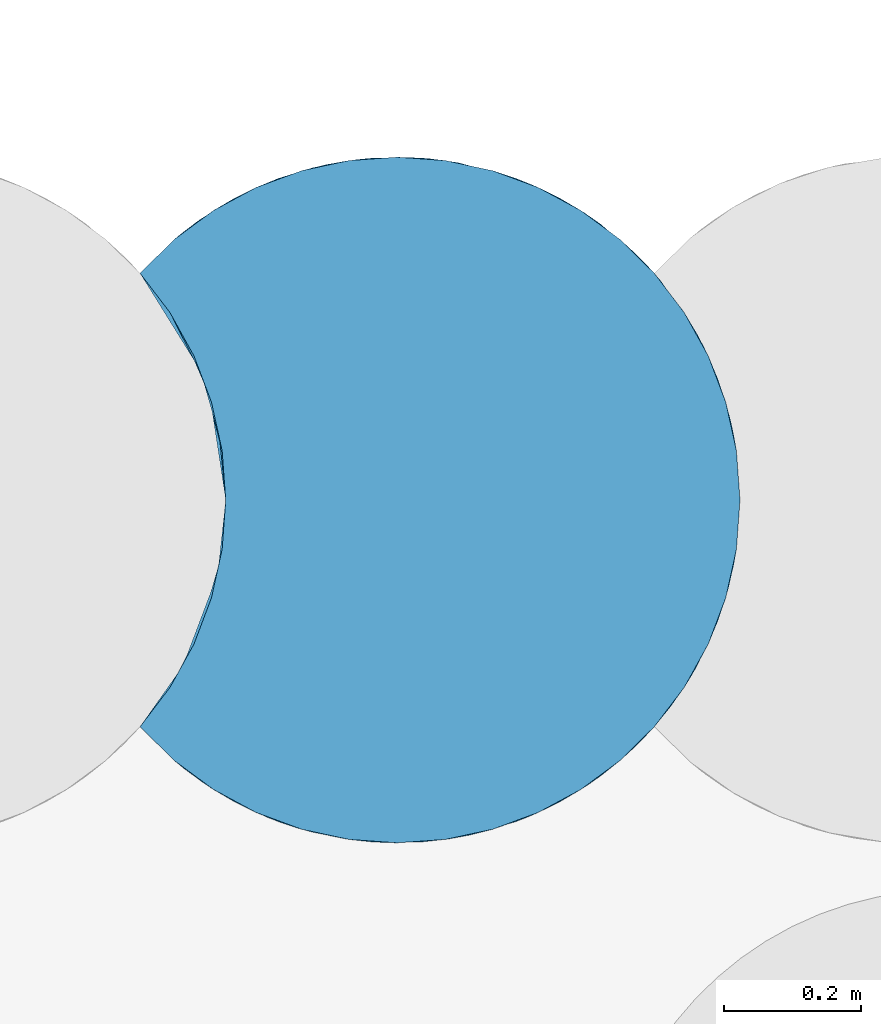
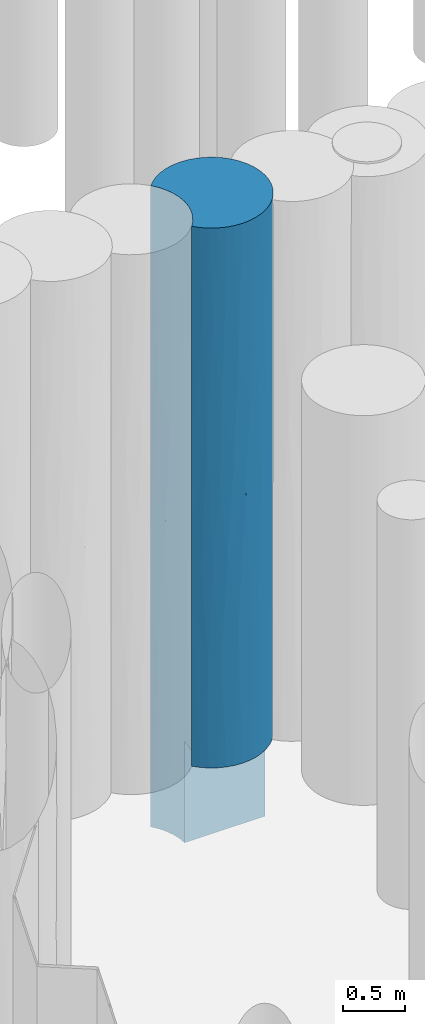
# One storey, part 84 of 104: 1 pile.
"""IFC2X3 building model written with IfcOpenShell, lengths in millimetres."""

from ifc_helpers import new_model, entity, si_unit, converted_unit, derived_unit, direction, frame, origin, place, context, subcontext, project, spatial, faceted_brep, source, transform, mapped, material, element, save


model = new_model("IFC2X3")

# Units and contexts
model_context = context("Model", 3, precision=0.01, world=origin(), true_north=direction((6.12303176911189e-17, 1.0)))
body_context = subcontext(model_context, "Body", "Model", "MODEL_VIEW")
ifc_project = project(units=[si_unit("LENGTHUNIT", "METRE", prefix="MILLI"), si_unit("AREAUNIT", "SQUARE_METRE", prefix="MILLI"), si_unit("VOLUMEUNIT", "CUBIC_METRE"), converted_unit("PLANEANGLEUNIT", "DEGREE", entity("IfcRatioMeasure", 0.0174532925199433), si_unit("PLANEANGLEUNIT", "RADIAN"), dimensions=[0, 0, 0, 0, 0, 0, 0]), si_unit("MASSUNIT", "GRAM", prefix="KILO"), derived_unit("MASSDENSITYUNIT", [(si_unit("MASSUNIT", "GRAM", prefix="KILO"), 1), (si_unit("LENGTHUNIT", "METRE"), -3)]), derived_unit("MOMENTOFINERTIAUNIT", [(si_unit("LENGTHUNIT", "METRE"), 4)]), si_unit("TIMEUNIT", "SECOND"), si_unit("FREQUENCYUNIT", "HERTZ"), si_unit("THERMODYNAMICTEMPERATUREUNIT", "DEGREE_CELSIUS"), derived_unit("THERMALTRANSMITTANCEUNIT", [(si_unit("MASSUNIT", "GRAM", prefix="KILO"), 1), (si_unit("THERMODYNAMICTEMPERATUREUNIT", "KELVIN"), -1), (si_unit("TIMEUNIT", "SECOND"), -3)]), derived_unit("VOLUMETRICFLOWRATEUNIT", [(si_unit("LENGTHUNIT", "METRE"), 3), (si_unit("TIMEUNIT", "SECOND"), -1)]), si_unit("ELECTRICCURRENTUNIT", "AMPERE"), si_unit("ELECTRICVOLTAGEUNIT", "VOLT"), si_unit("POWERUNIT", "WATT"), si_unit("FORCEUNIT", "NEWTON", prefix="KILO"), si_unit("ILLUMINANCEUNIT", "LUX"), si_unit("LUMINOUSFLUXUNIT", "LUMEN"), si_unit("LUMINOUSINTENSITYUNIT", "CANDELA"), derived_unit("USERDEFINED", [(si_unit("MASSUNIT", "GRAM", prefix="KILO"), -1), (si_unit("LENGTHUNIT", "METRE"), -2), (si_unit("TIMEUNIT", "SECOND"), 3), (si_unit("LUMINOUSFLUXUNIT", "LUMEN"), 1)]), derived_unit("LINEARVELOCITYUNIT", [(si_unit("LENGTHUNIT", "METRE"), 1), (si_unit("TIMEUNIT", "SECOND"), -1)]), si_unit("PRESSUREUNIT", "PASCAL"), derived_unit("USERDEFINED", [(si_unit("LENGTHUNIT", "METRE"), -2), (si_unit("MASSUNIT", "GRAM", prefix="KILO"), 1), (si_unit("TIMEUNIT", "SECOND"), -2)]), derived_unit("LINEARFORCEUNIT", [(si_unit("MASSUNIT", "GRAM", prefix="KILO"), 1), (si_unit("LENGTHUNIT", "METRE"), 1), (si_unit("TIMEUNIT", "SECOND"), -2), (si_unit("LENGTHUNIT", "METRE"), -1)]), derived_unit("PLANARFORCEUNIT", [(si_unit("MASSUNIT", "GRAM", prefix="KILO"), 1), (si_unit("LENGTHUNIT", "METRE"), 1), (si_unit("TIMEUNIT", "SECOND"), -2), (si_unit("LENGTHUNIT", "METRE"), -2)])], contexts=[model_context])

# Site, building, storey
site_placement = place(None, origin())
site = spatial("IfcSite", under=ifc_project, at=site_placement, Name="Theater aan de Parade", CompositionType="ELEMENT")
building_placement = place(site_placement, origin())
building = spatial("IfcBuilding", under=site, at=building_placement, Name="Theater aan de Parade", CompositionType="ELEMENT")
storey_placement = place(building_placement, frame((0.0, 0.0, -5520.0)))
storey = spatial("IfcBuildingStorey", under=building, at=storey_placement, Name="-2 kelder", CompositionType="ELEMENT", Elevation=-5520.0)

# Pile
ifc_material = material(Name="00_PBT_MAT_grout")
shared_shape = source(origin(), body_context, "Body", "Brep", [
    faceted_brep([(447.024567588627, 996.610134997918, 0.0), (516.050365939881, 981.753867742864, 0.0), (582.295809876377, 957.322481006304, 0.0), (644.440261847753, 923.802640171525, 0.0), (701.244632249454, 881.862011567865, 0.0), (751.564698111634, 832.344511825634, 0.0), (795.307447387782, 774.871898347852, 0.0), (830.3061049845, 711.705910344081, 0.0), (855.841245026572, 644.155075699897, 0.0), (871.379164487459, 573.629291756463, 0.0), (876.595272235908, 501.595272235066, 0.0), (126.595272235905, 501.595272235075, 0.0), (121.380912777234, 573.617282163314, 0.0), (105.846592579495, 644.137097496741, 0.0), (80.3163177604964, 711.683855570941, 0.0), (45.3225844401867, 774.848704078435, 0.0), (1.59527223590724, 832.314186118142, 0.0), (51.9353252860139, 881.852972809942, 0.0), (108.741467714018, 923.797047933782, 0.0), (170.888616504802, 957.319719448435, 0.0), (237.136331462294, 981.75275040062, 0.0), (306.163620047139, 996.609799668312, 0.0), (376.594352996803, 1001.59527223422, 0.0), (794.756123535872, 775.714776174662, 1228.81272915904), (549.604882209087, 970.70898431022, 4489.81932615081), (520.051793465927, 980.573587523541, 5382.91341902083), (613.960467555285, 941.660908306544, 5318.51941458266), (876.595272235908, 501.595272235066, 1000.0), (871.379164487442, 573.629291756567, 6320.0), (876.595272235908, 501.59527223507, 6320.0), (876.595272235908, 501.595272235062, 5539.2311470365), (876.595272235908, 501.59527223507, 4758.46227378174), (520.051793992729, 980.573587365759, 937.086578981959), (844.294832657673, 678.392108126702, 1164.36332466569), (271.387390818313, 990.401268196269, 1001.48399115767), (613.960468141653, 941.660907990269, 1001.48058281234), (465.503122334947, 993.627175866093, 3572.9572876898), (591.95749686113, 952.837016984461, 2592.25031757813), (425.19152205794, 999.228073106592, 2413.69991540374), (51.9353254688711, 881.85297296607, 6320.0), (108.741467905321, 923.797048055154, 6320.0), (62.3331531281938, 890.490271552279, 5148.84671821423), (727.290636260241, 857.983770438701, 1464.8632228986), (813.948631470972, 743.92157944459, 2176.7551094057), (411.897565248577, 1000.34746331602, 1347.03164863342), (170.419670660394, 957.107754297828, 3160.0), (89.8360826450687, 911.191618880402, 2088.29114741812), (79.5245862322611, 903.775589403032, 3056.90562258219), (844.294831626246, 678.392110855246, 4334.71686722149), (813.948631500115, 743.921579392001, 5244.04250825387), (856.701469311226, 641.230652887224, 5294.90075363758), (317.324708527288, 998.069843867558, 2005.67899400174), (139.222527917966, 941.65683639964, 5318.51289021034), (271.387391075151, 990.401268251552, 5318.5160089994), (203.580632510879, 970.707129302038, 4489.82136728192), (855.841245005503, 644.155075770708, 6320.0), (830.306104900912, 711.705910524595, 6320.0), (411.897565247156, 1000.34746331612, 4972.9683515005), (376.594352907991, 1001.59527223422, 6320.0), (447.024567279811, 996.610135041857, 6320.0), (876.595272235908, 501.595272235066, 2098.46227378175), (869.333230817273, 586.502893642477, 1549.23112851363), (646.439422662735, 922.52773057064, 4378.31323819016), (861.144910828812, 624.930781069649, 2647.69338986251), (139.222527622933, 941.656836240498, 1001.48711016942), (795.307447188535, 774.871898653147, 6320.0), (576.321270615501, 959.972328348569, 3449.19162586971), (751.585178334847, 832.325631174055, 6320.0), (727.290636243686, 857.983770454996, 5537.32646657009), (701.244631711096, 881.862012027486, 6320.0), (203.580632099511, 970.707129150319, 1830.17863376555), (644.440261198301, 923.802640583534, 6320.0), (341.290873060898, 1000.34731423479, 3160.0), (253.934917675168, 986.316261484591, 2717.65300360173), (650.01973412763, 920.21092368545, 1972.39054739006), (549.604882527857, 970.70898419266, 1830.18066998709), (62.3331529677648, 890.490271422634, 1171.15328050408), (876.595272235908, 501.595272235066, 3196.92454756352), (876.595272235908, 501.595272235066, 2561.5377059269), (793.00101597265, 778.373625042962, 4276.18344993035), (864.687323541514, 610.067155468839, 3612.80310461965), (727.290635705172, 857.983770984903, 4689.95415944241), (1.59527223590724, 832.314186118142, 5539.23141195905), (1.59527223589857, 832.314186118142, 4758.45763153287), (1.59527223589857, 832.314186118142, 780.768588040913), (1.59527223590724, 832.314186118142, 1561.53717608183), (582.295809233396, 957.322481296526, 6320.0), (516.050365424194, 981.753867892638, 6320.0), (1.59527223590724, 832.314186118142, 6320.0), (170.888616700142, 957.319719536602, 6320.0), (760.967406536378, 821.373417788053, 2912.00306888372), (306.163620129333, 996.609799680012, 6320.0), (237.136331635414, 981.752750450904, 6320.0), (317.324708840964, 998.069843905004, 4314.32100595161), (824.270181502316, 724.277053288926, 3295.1742905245), (740.362063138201, 844.631308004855, 3786.33735840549), (89.8360828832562, 911.191619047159, 4231.70885066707), (1.59527223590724, 832.314186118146, 2342.30657834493), (1.59527223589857, 832.314186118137, 3123.07435216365), (1.59527223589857, 832.314186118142, 3940.76599184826), (1.5952722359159, 832.314186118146, 4721.53800578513), (868.31868141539, 592.193775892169, 4573.56444361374), (673.583725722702, 903.836317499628, 3160.0), (876.595272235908, 501.595272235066, 4123.07541185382), (1.5952722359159, 832.314186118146, 3922.30672178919), (203.582286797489, 32.4828050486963, 2063.74645387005), (104.799222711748, 81.9205083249, 2017.24056259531), (170.888936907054, 45.8706803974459, 1000.0), (306.169463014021, 6.57991348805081, 1000.0), (237.139379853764, 21.4369086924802, 1000.0), (108.739323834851, 79.3948566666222, 1000.0), (844.29862219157, 324.808461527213, 1964.84509720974), (855.843884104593, 359.044340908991, 1000.0), (871.380005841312, 429.567032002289, 1000.0), (51.9315440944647, 121.340800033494, 1000.0), (249.149636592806, 18.1104121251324, 3064.60351294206), (341.298032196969, 2.84272352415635, 2389.43952600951), (481.811471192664, 12.7910665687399, 1910.77219920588), (447.035194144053, 6.58192150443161, 1000.0), (516.062532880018, 21.4402106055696, 1000.0), (795.307447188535, 228.318645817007, 6320.0), (804.969430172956, 243.727901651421, 5501.66350533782), (830.306104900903, 291.484633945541, 6320.0), (376.602802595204, 1.59527229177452, 1000.0), (727.301618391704, 145.217581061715, 3659.99144225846), (673.596082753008, 99.363350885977, 2270.79748972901), (774.493590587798, 198.813290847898, 2390.35009709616), (481.80003106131, 12.7886041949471, 5409.25641590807), (453.100427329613, 7.48297604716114, 4513.69340896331), (549.604883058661, 32.4815604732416, 4692.84905904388), (226.910865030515, 24.526536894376, 5446.00106667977), (237.136331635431, 21.4377940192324, 6320.0), (170.888616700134, 45.8708249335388, 6320.0), (203.580632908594, 32.4834150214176, 4596.17974534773), (186.509828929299, 39.1371398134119, 3719.1308989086), (302.739707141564, 7.07999895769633, 3999.49399943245), (567.354968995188, 39.4148549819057, 1816.1274248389), (549.617476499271, 32.4862051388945, 2627.20563650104), (582.308728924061, 45.8738949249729, 1000.0), (613.96046814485, 61.5296364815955, 5409.25483365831), (139.222528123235, 61.5337079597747, 5366.3614019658), (94.9848091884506, 88.4420959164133, 4306.20718492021), (66.1639001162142, 109.635627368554, 5518.62855545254), (1.59527223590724, 170.876358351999, 3342.30506081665), (1.5952722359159, 170.876358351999, 4123.07341442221), (701.244631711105, 121.328532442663, 6320.0), (727.290636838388, 145.206774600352, 5009.81933080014), (751.585178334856, 170.864913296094, 6320.0), (51.9353254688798, 121.33757150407, 6320.0), (1.59527223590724, 170.876358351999, 6320.0), (1.59527223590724, 170.876358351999, 5539.23164639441), (108.741467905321, 79.3934964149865, 6320.0), (830.311221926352, 291.49568395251, 1000.0), (306.163620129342, 6.58074479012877, 6320.0), (868.398757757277, 411.432465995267, 5503.47129762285), (859.976701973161, 373.757901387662, 4296.85621176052), (376.594352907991, 1.5952722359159, 6320.0), (341.290874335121, 2.8432301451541, 4999.47557712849), (751.595272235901, 170.87635835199, 1000.0), (795.315189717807, 228.330509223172, 1000.0), (516.050365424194, 21.4366765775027, 6320.0), (447.024567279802, 6.58040942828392, 6320.0), (844.298622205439, 324.808461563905, 2985.23218810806), (453.112845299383, 7.48489892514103, 2806.34173780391), (1.59527223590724, 170.876358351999, 2561.5367072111), (1.59527223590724, 170.876358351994, 1780.7688531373), (1.59527223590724, 170.876358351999, 1000.0), (644.453065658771, 79.3960272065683, 1000.0), (701.256460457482, 121.33863144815, 1000.0), (644.440261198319, 79.3879038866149, 6320.0), (868.741967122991, 413.32505805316, 3421.75623803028), (411.907133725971, 2.84375851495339, 3659.99398159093), (801.333356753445, 237.781778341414, 3614.51908154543), (866.89834836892, 403.600917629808, 2475.03864258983), (139.221565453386, 61.5342272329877, 2966.67369440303), (855.841245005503, 359.035468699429, 6320.0), (844.294832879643, 324.798436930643, 5400.40783371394), (577.171561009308, 43.589647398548, 3660.04365239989), (656.879911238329, 87.5415062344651, 3205.14514333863), (651.229971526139, 83.772604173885, 4395.20285150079), (582.295809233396, 45.8680631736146, 6320.0), (813.948632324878, 259.268966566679, 4682.88089299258), (871.379164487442, 429.561252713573, 6320.0), (61.5885442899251, 113.303163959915, 2951.9221345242), (1.59527223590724, 170.876358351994, 3196.92458745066), (1.59527223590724, 170.876358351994, 4758.46229372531), (121.380912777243, 573.617282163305, 6320.0), (126.595272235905, 501.595272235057, 6320.0), (121.380912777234, 429.573262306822, 6320.0), (105.846592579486, 359.05344697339, 6320.0), (80.3163177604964, 291.506688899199, 6320.0), (45.3225844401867, 228.341840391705, 6320.0), (45.3225844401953, 774.848704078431, 6320.0), (80.3163177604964, 711.683855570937, 6320.0), (105.846592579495, 644.137097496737, 6320.0), (126.595272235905, 501.59527223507, 1000.0), (126.595272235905, 501.595272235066, 4758.46227344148), (126.595272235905, 501.595272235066, 5539.23114702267), (103.716989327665, 651.110713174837, 929.570302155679), (117.506504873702, 596.496071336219, 2931.36424013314), (119.581500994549, 585.049320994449, 1600.95905710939), (126.595272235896, 501.595272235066, 2098.46227344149), (63.9612327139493, 743.898835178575, 1002.25156593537), (57.034257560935, 756.001010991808, 3976.06843691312), (59.0094113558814, 752.629158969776, 4844.99935350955), (94.3024450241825, 678.371969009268, 5355.17937068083), (52.6084708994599, 763.344684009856, 1951.92213360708), (94.3024450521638, 678.371968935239, 1823.06883573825), (89.4529642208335, 690.705708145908, 3078.94407721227), (119.45154693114, 585.813396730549, 3842.56157073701), (94.3024444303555, 678.371970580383, 4334.81933337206), (116.899441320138, 599.584158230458, 4844.99935891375), (126.595272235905, 501.595272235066, 3196.92454688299), (126.595272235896, 501.595272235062, 4123.07541190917), (126.595272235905, 501.595272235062, 2561.53770595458), (114.888484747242, 394.032552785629, 5404.38906559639), (63.9612331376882, 259.291710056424, 5404.38906552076), (52.4390141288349, 239.570259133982, 2802.0358188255), (63.9612331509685, 259.291710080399, 1947.59403560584), (94.3024456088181, 324.81857700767, 2700.69910324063), (114.88848475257, 394.032552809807, 1947.59403553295), (80.3163177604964, 291.506688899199, 1000.0), (45.3225844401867, 228.341840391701, 1000.0), (119.327197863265, 416.652647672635, 4541.19743988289), (86.8326465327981, 306.194250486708, 3696.32218371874), (117.809113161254, 408.273450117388, 3449.75323103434), (105.846592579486, 359.05344697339, 1000.0), (121.380912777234, 429.573262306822, 1000.0), (94.3024455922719, 324.818576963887, 4691.94526432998), (54.0384103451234, 242.18755514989, 4333.70688615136)], [[[0, 1, 2, 3, 4, 5, 6, 7, 8, 9, 10, 11, 12, 13, 14, 15, 16, 17, 18, 19, 20, 21, 22]], [[7, 6, 23]], [[24, 25, 26]], [[10, 9, 27]], [[28, 29, 30, 31]], [[1, 32, 2]], [[33, 9, 8]], [[19, 34, 20]], [[3, 2, 35]], [[36, 37, 38]], [[39, 40, 41]], [[42, 43, 23]], [[23, 43, 33]], [[42, 5, 4]], [[32, 35, 2]], [[32, 0, 44]], [[45, 46, 47]], [[5, 42, 23]], [[8, 7, 33]], [[48, 49, 50]], [[51, 44, 34]], [[52, 53, 54]], [[55, 50, 56]], [[57, 58, 59]], [[60, 27, 61]], [[24, 26, 62]], [[56, 50, 49]], [[63, 33, 43]], [[64, 19, 18]], [[49, 65, 56]], [[66, 37, 36]], [[67, 68, 69]], [[34, 64, 70]], [[68, 26, 71]], [[72, 51, 73]], [[35, 74, 42]], [[74, 35, 75]], [[75, 35, 32]], [[68, 71, 69]], [[20, 34, 21]], [[4, 35, 42]], [[76, 18, 17]], [[63, 77, 78, 60]], [[31, 50, 28]], [[79, 49, 48]], [[33, 61, 9]], [[4, 3, 35]], [[64, 34, 19]], [[77, 63, 80]], [[49, 81, 68]], [[82, 41, 83]], [[76, 84, 85]], [[68, 65, 49]], [[26, 86, 71]], [[86, 26, 25]], [[86, 25, 87]], [[88, 39, 82]], [[17, 16, 84]], [[89, 52, 40]], [[25, 59, 87]], [[81, 49, 79]], [[42, 74, 90]], [[53, 58, 57]], [[91, 53, 92]], [[70, 64, 46]], [[36, 57, 24]], [[38, 44, 51]], [[53, 89, 92]], [[22, 21, 34]], [[52, 89, 53]], [[53, 93, 54]], [[22, 44, 0]], [[62, 26, 81]], [[94, 95, 79]], [[51, 34, 70]], [[22, 34, 44]], [[76, 17, 84]], [[76, 46, 64]], [[58, 53, 91]], [[93, 53, 57]], [[96, 52, 54]], [[41, 40, 52]], [[68, 67, 65]], [[26, 68, 81]], [[46, 85, 97, 98]], [[96, 99, 100, 83]], [[46, 98, 47]], [[96, 54, 45]], [[47, 99, 96]], [[45, 54, 93]], [[46, 45, 70]], [[48, 101, 80]], [[63, 60, 61]], [[63, 43, 94]], [[73, 70, 45]], [[38, 51, 72]], [[36, 93, 57]], [[93, 72, 73]], [[37, 74, 75]], [[90, 74, 102]], [[36, 38, 72]], [[75, 44, 38]], [[36, 72, 93]], [[36, 24, 66]], [[95, 62, 81]], [[66, 62, 102]], [[48, 94, 79]], [[90, 95, 94]], [[94, 48, 80]], [[90, 94, 43]], [[42, 90, 43]], [[95, 81, 79]], [[28, 50, 55]], [[101, 48, 50]], [[0, 32, 1]], [[44, 75, 32]], [[24, 57, 25]], [[59, 25, 57]], [[90, 102, 95]], [[62, 95, 102]], [[62, 66, 24]], [[102, 74, 37]], [[9, 61, 27]], [[63, 61, 33]], [[7, 23, 33]], [[5, 23, 6]], [[50, 31, 101]], [[80, 31, 103, 77]], [[80, 101, 31]], [[94, 80, 63]], [[38, 37, 75]], [[102, 37, 66]], [[46, 76, 85]], [[76, 64, 18]], [[41, 96, 83]], [[39, 41, 82]], [[96, 41, 52]], [[96, 45, 47]], [[47, 98, 104, 99]], [[70, 73, 51]], [[93, 73, 45]], [[105, 106, 107]], [[108, 105, 109]], [[106, 110, 107]], [[111, 112, 113]], [[114, 110, 106]], [[115, 105, 116]], [[117, 118, 119]], [[120, 121, 122]], [[123, 118, 117]], [[124, 125, 126]], [[127, 128, 129]], [[130, 131, 132]], [[116, 108, 123]], [[133, 134, 135]], [[136, 137, 117]], [[136, 117, 119]], [[108, 116, 105]], [[136, 119, 138]], [[139, 127, 129]], [[130, 140, 133]], [[141, 140, 142]], [[143, 141, 144]], [[145, 146, 147]], [[148, 149, 150]], [[142, 148, 150]], [[132, 151, 140]], [[132, 140, 130]], [[112, 111, 152]], [[130, 153, 131]], [[154, 155, 103]], [[127, 156, 157]], [[158, 159, 126]], [[127, 160, 161]], [[126, 111, 162]], [[163, 116, 117]], [[114, 164, 165, 166]], [[125, 167, 168]], [[145, 169, 139]], [[158, 126, 125]], [[170, 155, 162]], [[113, 27, 60, 78]], [[128, 135, 171]], [[105, 107, 109]], [[172, 126, 162]], [[111, 159, 152]], [[162, 111, 173]], [[126, 159, 111]], [[106, 105, 174]], [[140, 141, 133]], [[175, 122, 176]], [[177, 178, 179]], [[160, 127, 180]], [[157, 156, 153]], [[139, 180, 127]], [[180, 139, 169]], [[115, 174, 105]], [[178, 125, 124]], [[121, 146, 181]], [[146, 121, 147]], [[173, 113, 78]], [[124, 172, 181]], [[146, 139, 179]], [[176, 121, 181]], [[171, 163, 177]], [[154, 175, 176]], [[136, 167, 125]], [[154, 103, 31, 30]], [[158, 125, 168]], [[181, 146, 124]], [[30, 29, 182]], [[142, 151, 148]], [[142, 144, 141]], [[163, 117, 137]], [[123, 117, 116]], [[156, 127, 161]], [[157, 135, 128]], [[179, 139, 129]], [[145, 139, 146]], [[176, 181, 155]], [[182, 154, 30]], [[172, 155, 181]], [[170, 162, 173]], [[183, 143, 184, 164]], [[134, 141, 174]], [[177, 179, 129]], [[124, 146, 179]], [[171, 115, 116]], [[134, 174, 115]], [[177, 129, 128]], [[178, 137, 125]], [[177, 163, 137]], [[116, 163, 171]], [[157, 128, 127]], [[177, 128, 171]], [[106, 174, 183]], [[114, 106, 164]], [[113, 173, 111]], [[170, 78, 77, 103]], [[78, 170, 173]], [[103, 155, 170]], [[133, 157, 130]], [[153, 130, 157]], [[143, 183, 141]], [[106, 183, 164]], [[141, 183, 174]], [[167, 136, 138]], [[125, 137, 136]], [[122, 121, 176]], [[121, 120, 147]], [[135, 134, 115]], [[141, 134, 133]], [[175, 154, 182]], [[155, 154, 176]], [[142, 150, 185, 144]], [[151, 142, 140]], [[126, 172, 124]], [[155, 172, 162]], [[133, 135, 157]], [[115, 171, 135]], [[179, 178, 124]], [[137, 178, 177]], [[186, 187, 188, 189, 190, 191, 149, 148, 151, 132, 131, 153, 156, 161, 160, 180, 169, 145, 147, 120, 122, 175, 182, 29, 28, 55, 56, 65, 67, 69, 71, 86, 87, 59, 58, 91, 92, 89, 40, 39, 88, 192, 193, 194]], [[195, 12, 11]], [[186, 196, 197, 187]], [[14, 13, 198]], [[199, 200, 201]], [[15, 202, 16]], [[100, 203, 204]], [[205, 194, 193]], [[14, 202, 15]], [[198, 13, 12]], [[206, 207, 208]], [[209, 210, 208]], [[193, 192, 205]], [[204, 205, 192]], [[196, 186, 211]], [[198, 202, 14]], [[207, 202, 198]], [[209, 211, 210]], [[211, 205, 210]], [[212, 209, 199]], [[202, 85, 84, 16]], [[186, 194, 205]], [[192, 88, 82, 83, 100]], [[210, 205, 204]], [[98, 97, 85, 206]], [[205, 211, 186]], [[209, 212, 213, 196]], [[211, 209, 196]], [[208, 199, 209]], [[210, 204, 203]], [[195, 200, 198]], [[199, 208, 207]], [[199, 201, 214, 212]], [[203, 100, 99, 104, 98]], [[100, 204, 192]], [[203, 208, 210]], [[208, 203, 98]], [[207, 198, 200]], [[195, 198, 12]], [[207, 200, 199]], [[201, 200, 195]], [[85, 202, 206]], [[98, 206, 208]], [[207, 206, 202]], [[189, 215, 216, 190]], [[188, 187, 197]], [[165, 217, 218]], [[219, 220, 218]], [[221, 222, 218]], [[223, 215, 197]], [[216, 185, 150, 149]], [[219, 224, 225]], [[214, 220, 225]], [[189, 188, 215]], [[221, 218, 220, 226]], [[227, 220, 195]], [[191, 190, 216]], [[226, 220, 227]], [[215, 228, 216]], [[225, 223, 213]], [[220, 214, 201, 195]], [[184, 229, 217]], [[225, 213, 212, 214]], [[165, 222, 166]], [[219, 218, 217]], [[218, 222, 165]], [[191, 216, 149]], [[185, 216, 229]], [[228, 215, 223]], [[215, 188, 197]], [[223, 225, 224]], [[223, 197, 196, 213]], [[228, 223, 224]], [[220, 219, 225]], [[228, 224, 229]], [[217, 229, 224]], [[228, 229, 216]], [[229, 184, 143, 144, 185]], [[219, 217, 224]], [[217, 165, 164, 184]], [[158, 168, 167, 138, 119, 118, 123, 108, 109, 107, 110, 114, 166, 222, 221, 226, 227, 195, 27, 113, 112, 152, 159]], [[195, 11, 10, 27]]]),
])
pile_placement = place(storey_placement, frame((77173.4047277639, 20202.3807468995, -3840.0)))
element("IfcPile", 1, at=pile_placement, inside=storey, material=ifc_material, Name="17_PBT_SFO_grondkering_rond:Ø1000 (grondkering)", ObjectType="17_PBT_SFO_grondkering_rond:Ø1000 (grondkering)", PredefinedType="NOTDEFINED", context=body_context, shape_type="MappedRepresentation", body=[
    mapped(shared_shape, transform((0.0, 0.0, 0.0), scale=1.0)),
])

save(model, "model.ifc")
